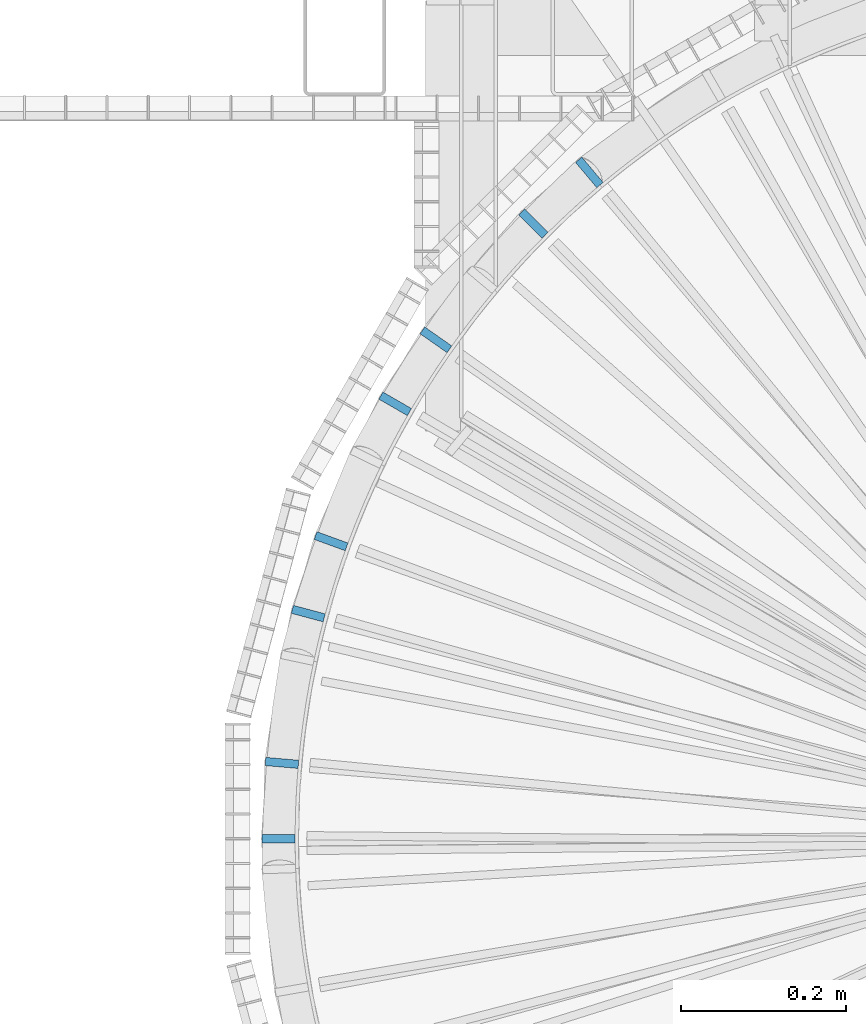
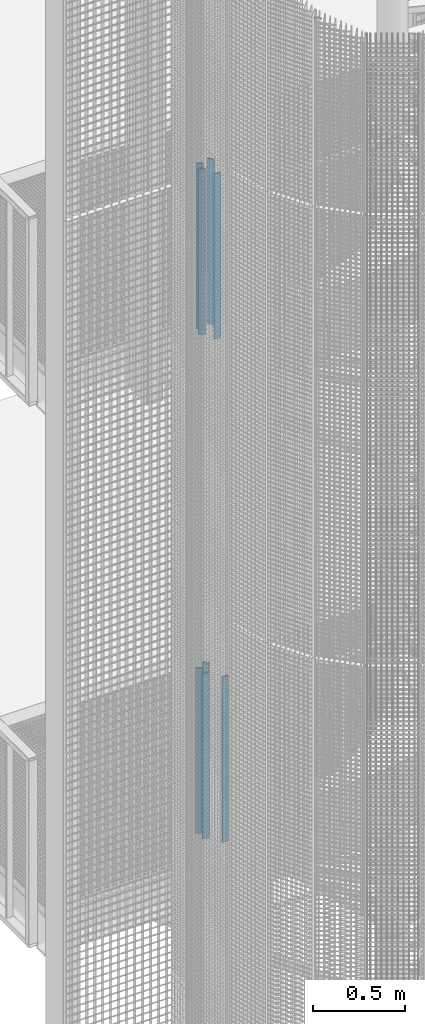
# One storey, part 8 of 1148: 8 columns, 8 elements without a shape of their own.
"""IFC2X3 building model written with IfcOpenShell, lengths in millimetres."""

import ifcopenshell
import ifcopenshell.guid

model = None  # the IFC model being written
_history = None  # IfcOwnerHistory: only IFC2X3 demands one
_inside = {}  # id of a spatial element -> (the spatial element, [elements in it])
_under = {}  # id of a project, library or spatial element -> (it, [spatial elements below it])
_declared = {}  # id of a project -> (the project, [libraries it declares])
_typed = {}  # id of a type object -> (the type object, [elements of that type])
_made_of = {}  # id of a material, layer set ... -> (it, [elements and type objects made of it])


def new_model(schema):
    """Start an empty IFC model of exactly this schema.

    Asked for "IFC4X3", IfcOpenShell would pick the latest addendum, in which some entities
    have other attributes; the version numbers below select the first issue.
    IFC2X3 requires an IfcOwnerHistory on every rooted entity: one is made here for all.
    """
    global model, _history
    if schema == "IFC4X3":
        model = ifcopenshell.file(schema_version=(4, 3, 0, 0))
    else:
        model = ifcopenshell.file(schema=schema)
    _inside.clear()
    _under.clear()
    _declared.clear()
    _typed.clear()
    _made_of.clear()
    _history = None
    if model.schema == "IFC2X3":
        org = make("IfcOrganization", Name="unknown")
        user = make(
            "IfcPersonAndOrganization",
            ThePerson=make("IfcPerson", FamilyName="unknown"),
            TheOrganization=org,
        )
        app = make(
            "IfcApplication",
            ApplicationDeveloper=org,
            Version="unknown",
            ApplicationFullName="unknown",
            ApplicationIdentifier="unknown",
        )
        _history = make(
            "IfcOwnerHistory",
            OwningUser=user,
            OwningApplication=app,
            ChangeAction="ADDED",
            CreationDate=0,
        )
    return model


def make(cls, **values):
    """One entity of the class cls with the attributes given. An attribute that is None is left unset."""
    return model.create_entity(
        cls, **{name: value for name, value in values.items() if value is not None}
    )


def rooted(cls, **values):
    """An entity with a GlobalId (a new one), such as an element, a storey or a relation."""
    return make(cls, GlobalId=ifcopenshell.guid.new(), OwnerHistory=_history, **values)


def si_unit(unit_type, name, prefix=None):
    """IfcSIUnit, for example si_unit("LENGTHUNIT", "METRE", prefix="MILLI")."""
    return make("IfcSIUnit", UnitType=unit_type, Prefix=prefix, Name=name)


def assignment(units):
    """IfcUnitAssignment: the units of a project."""
    return None if units is None else make("IfcUnitAssignment", Units=units)


def point(xyz):
    """IfcCartesianPoint."""
    return None if xyz is None else make("IfcCartesianPoint", Coordinates=xyz)


def direction(xyz):
    """IfcDirection."""
    return None if xyz is None else make("IfcDirection", DirectionRatios=xyz)


def frame(location, z_axis=None, x_axis=None):
    """IfcAxis2Placement3D, a coordinate frame: its origin and axes. An axis left out is left unset."""
    return make(
        "IfcAxis2Placement3D",
        Location=point(location),
        Axis=direction(z_axis),
        RefDirection=direction(x_axis),
    )


def frame_2d(location, x_axis=None):
    """IfcAxis2Placement2D, a coordinate frame in the plane: its origin and x axis."""
    return make(
        "IfcAxis2Placement2D", Location=point(location), RefDirection=direction(x_axis)
    )


def origin_with_axes():
    """The frame at (0, 0, 0) with the z axis (0, 0, 1) and the x axis (1, 0, 0) written out."""
    return frame((0.0, 0.0, 0.0), z_axis=(0.0, 0.0, 1.0), x_axis=(1.0, 0.0, 0.0))


def origin_2d_with_axis():
    """The frame at (0, 0) in the plane with the x axis (1, 0) written out."""
    return frame_2d((0.0, 0.0), x_axis=(1.0, 0.0))


def place(relative_to, where):
    """IfcLocalPlacement: puts the frame where relative to a parent placement (None: the world)."""
    return make(
        "IfcLocalPlacement", PlacementRelTo=relative_to, RelativePlacement=where
    )


def context(
    kind, dimensions, precision=None, world=None, true_north=None, identifier=None
):
    """IfcGeometricRepresentationContext, for example the 3D "Model" context."""
    return make(
        "IfcGeometricRepresentationContext",
        ContextIdentifier=identifier,
        ContextType=kind,
        CoordinateSpaceDimension=dimensions,
        Precision=precision,
        WorldCoordinateSystem=world,
        TrueNorth=true_north,
    )


def subcontext(parent, identifier, kind, view, scale=None):
    """IfcGeometricRepresentationSubContext, for example "Body" below "Model"."""
    return make(
        "IfcGeometricRepresentationSubContext",
        ContextIdentifier=identifier,
        ContextType=kind,
        ParentContext=parent,
        TargetScale=scale,
        TargetView=view,
    )


def project(units=None, contexts=None):
    """IfcProject with its units and contexts."""
    return rooted(
        "IfcProject",
        Name="project",
        RepresentationContexts=contexts,
        UnitsInContext=assignment(units),
    )


def spatial(cls, under=None, at=None, **own):
    """A site, building, storey or space (cls), placed at a placement, below another one or the project."""
    s = rooted(cls, ObjectPlacement=at, **own)
    if under is not None:
        _under.setdefault(under.id(), (under, []))[1].append(s)
    return s


def profile(cls, at=None, kind="AREA", **sizes):
    """A parametric profile (cls). Its sizes go by their IFC names, for example OverallWidth=200.0."""
    return make(cls, ProfileType=kind, Position=at, **sizes)


def rectangle(**sizes):
    """IfcRectangleProfileDef."""
    return profile("IfcRectangleProfileDef", **sizes)


def extrude(swept, where, along, depth):
    """IfcExtrudedAreaSolid: the profile swept, set in the frame where, extruded along a direction by depth."""
    return make(
        "IfcExtrudedAreaSolid",
        SweptArea=swept,
        Position=where,
        ExtrudedDirection=direction(along),
        Depth=depth,
    )


def shape(context_of_items, identifier, shape_type, items):
    """IfcShapeRepresentation: the items that make up one representation, for example the "Body"."""
    return make(
        "IfcShapeRepresentation",
        ContextOfItems=context_of_items,
        RepresentationIdentifier=identifier,
        RepresentationType=shape_type,
        Items=items,
    )


def material(Name=None, Category=None):
    """IfcMaterial."""
    return make("IfcMaterial", Name=Name, Category=Category)


def made_of(thing, what):
    """Note that an element or type object is made of a material, layer set ...; save() writes the relation."""
    if what is not None:
        _made_of.setdefault(what.id(), (what, []))[1].append(thing)
    return thing


def type_object(cls, material=None, **own):
    """A type object (cls), such as IfcWallType, which elements share."""
    return made_of(rooted(cls, **own), material)


def element(
    cls,
    number,
    at=None,
    inside=None,
    cuts=None,
    type_object=None,
    material=None,
    context=None,
    identifier="Body",
    shape_type=None,
    held_by="IfcProductDefinitionShape",
    body=None,
    shapes=None,
    **own,
):
    """One element of the class cls, such as IfcWall. Its Tag is "e" and its number.

    at: its placement. inside: the storey or other place that contains it. cuts: it is an
    opening in that element (IfcRelVoidsElement). A single representation is given by context,
    identifier, shape_type and body (its items); several are given by shapes. held_by: the class
    of the entity that holds the representations. save() writes the other relations.
    """
    e = rooted(cls, Tag="e%d" % number, ObjectPlacement=at, **own)
    if body is not None:
        shapes = [shape(context, identifier, shape_type, body)]
    if shapes is not None:
        e.Representation = make(held_by, Representations=shapes)
    if inside is not None:
        _inside.setdefault(inside.id(), (inside, []))[1].append(e)
    if cuts is not None:
        rooted(
            "IfcRelVoidsElement", RelatingBuildingElement=cuts, RelatedOpeningElement=e
        )
    if type_object is not None:
        _typed.setdefault(type_object.id(), (type_object, []))[1].append(e)
    return made_of(e, material)


def aggregate(whole, parts):
    """IfcRelAggregates: a whole, such as a stair, and the parts it consists of."""
    return rooted("IfcRelAggregates", RelatingObject=whole, RelatedObjects=parts)


def save(model, path):
    """Write the relations noted so far, then the file.

    IfcRelAggregates (storeys below a building ...), IfcRelContainedInSpatialStructure (elements
    in a storey), IfcRelDefinesByType, IfcRelAssociatesMaterial and IfcRelDeclares: one each for
    every whole, place, type object, material and project.
    """
    for whole, parts in _under.values():
        aggregate(whole, parts)
    for where, things in _inside.values():
        rooted(
            "IfcRelContainedInSpatialStructure",
            RelatedElements=things,
            RelatingStructure=where,
        )
    for kind, things in _typed.values():
        rooted("IfcRelDefinesByType", RelatedObjects=things, RelatingType=kind)
    for what, things in _made_of.values():
        rooted("IfcRelAssociatesMaterial", RelatedObjects=things, RelatingMaterial=what)
    for by, libraries in _declared.values():
        rooted("IfcRelDeclares", RelatingContext=by, RelatedDefinitions=libraries)
    model.write(path)


model = new_model("IFC2X3")

# Units and contexts
model_context = context("Model", 3, precision=1e-05, world=origin_with_axes())
body_context = subcontext(model_context, "Body", "Model", "MODEL_VIEW")
ifc_project = project(units=[si_unit("LENGTHUNIT", "METRE", prefix="MILLI"), si_unit("AREAUNIT", "SQUARE_METRE"), si_unit("VOLUMEUNIT", "CUBIC_METRE"), si_unit("MASSUNIT", "GRAM", prefix="KILO"), si_unit("TIMEUNIT", "SECOND"), si_unit("PLANEANGLEUNIT", "RADIAN"), si_unit("SOLIDANGLEUNIT", "STERADIAN"), si_unit("THERMODYNAMICTEMPERATUREUNIT", "DEGREE_CELSIUS"), si_unit("LUMINOUSINTENSITYUNIT", "LUMEN")], contexts=[model_context])

# Site, building, storey
site_placement = place(None, origin_with_axes())
site = spatial("IfcSite", under=ifc_project, at=site_placement, Name="Undefined", CompositionType="ELEMENT")
building_placement = place(site_placement, origin_with_axes())
building = spatial("IfcBuilding", under=site, at=building_placement, Name="Undefined", CompositionType="ELEMENT")
storey_placement = place(building_placement, origin_with_axes())
storey = spatial("IfcBuildingStorey", under=building, at=storey_placement, Name="Undefined", CompositionType="ELEMENT", Elevation=0.0)

# Assembly, column
assembly_1_placement = place(storey_placement, origin_with_axes())
assembly_1 = element("IfcElementAssembly", 1, at=assembly_1_placement, inside=storey, Name="MONTANT", AssemblyPlace="NOTDEFINED", PredefinedType="NOTDEFINED")
ifc_material = material(Name="STEEL/S235JR")
column_type = type_object("IfcColumnType", Name="PL10*40", PredefinedType="NOTDEFINED")
column_1_placement = place(assembly_1_placement, frame((-677.49814060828, 807.410843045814, 10246.52), z_axis=(0.0, 0.0, 1.0), x_axis=(0.642787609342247, -0.766044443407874, 0.0)))
column_1 = element("IfcColumn", 2, at=column_1_placement, type_object=column_type, material=ifc_material, Name="MONTANT", context=body_context, shape_type="SweptSolid", body=[
    extrude(rectangle(XDim=10.0, YDim=40.0, at=origin_2d_with_axis()), frame((0.0, 0.0, 1100.0), z_axis=(0.0, 0.0, -1.0), x_axis=(0.0, 1.0, 0.0)), (0.0, 0.0, 1.0), 1100.0),
])
aggregate(assembly_1, [column_1])

assembly_2_placement = place(storey_placement, origin_with_axes())
assembly_2 = element("IfcElementAssembly", 3, at=assembly_2_placement, inside=storey, Name="MONTANT", AssemblyPlace="NOTDEFINED", PredefinedType="NOTDEFINED")
column_2_placement = place(assembly_2_placement, frame((-1049.98921178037, 91.8621528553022, 10716.08), z_axis=(0.0, 0.0, 1.0), x_axis=(0.996194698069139, -0.0871557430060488, 0.0)))
column_2 = element("IfcColumn", 4, at=column_2_placement, type_object=column_type, material=ifc_material, Name="MONTANT", context=body_context, shape_type="SweptSolid", body=[
    extrude(rectangle(XDim=10.0, YDim=40.0, at=origin_2d_with_axis()), frame((0.0, 0.0, 1100.0), z_axis=(0.0, 0.0, -1.0), x_axis=(0.0, 1.0, 0.0)), (0.0, 0.0, 1.0), 1100.0),
])
aggregate(assembly_2, [column_2])

assembly_3_placement = place(storey_placement, origin_with_axes())
assembly_3 = element("IfcElementAssembly", 5, at=assembly_3_placement, inside=storey, Name="MONTANT", AssemblyPlace="NOTDEFINED", PredefinedType="NOTDEFINED")
column_3_placement = place(assembly_3_placement, frame((-990.43602231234, 360.489231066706, 10559.56), z_axis=(0.0, 0.0, 1.0), x_axis=(0.939692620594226, -0.342020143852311, 0.0)))
column_3 = element("IfcColumn", 6, at=column_3_placement, type_object=column_type, material=ifc_material, Name="MONTANT", context=body_context, shape_type="SweptSolid", body=[
    extrude(rectangle(XDim=10.0, YDim=40.0, at=origin_2d_with_axis()), frame((0.0, 0.0, 1100.0), z_axis=(0.0, 0.0, -1.0), x_axis=(0.0, 1.0, 0.0)), (0.0, 0.0, 1.0), 1100.0),
])
aggregate(assembly_3, [column_3])

assembly_4_placement = place(storey_placement, origin_with_axes())
assembly_4 = element("IfcElementAssembly", 7, at=assembly_4_placement, inside=storey, Name="MONTANT", AssemblyPlace="NOTDEFINED", PredefinedType="NOTDEFINED")
column_4_placement = place(assembly_4_placement, frame((-863.386254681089, 604.549563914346, 10403.04), z_axis=(0.0, 0.0, 1.0), x_axis=(0.819152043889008, -0.573576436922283, 0.0)))
column_4 = element("IfcColumn", 8, at=column_4_placement, type_object=column_type, material=ifc_material, Name="MONTANT", context=body_context, shape_type="SweptSolid", body=[
    extrude(rectangle(XDim=10.0, YDim=40.0, at=origin_2d_with_axis()), frame((0.0, 0.0, 1100.0), z_axis=(0.0, 0.0, -1.0), x_axis=(0.0, 1.0, 0.0)), (0.0, 0.0, 1.0), 1100.0),
])
aggregate(assembly_4, [column_4])

assembly_5_placement = place(storey_placement, origin_with_axes())
assembly_5 = element("IfcElementAssembly", 9, at=assembly_5_placement, inside=storey, Name="MONTANT", AssemblyPlace="NOTDEFINED", PredefinedType="NOTDEFINED")
column_5_placement = place(assembly_5_placement, frame((-1018.08582091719, 272.795273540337, 7272.6), z_axis=(0.0, 0.0, 1.0), x_axis=(0.965925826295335, -0.258819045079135, 0.0)))
column_5 = element("IfcColumn", 10, at=column_5_placement, type_object=column_type, material=ifc_material, Name="MONTANT", context=body_context, shape_type="SweptSolid", body=[
    extrude(rectangle(XDim=10.0, YDim=40.0, at=origin_2d_with_axis()), frame((0.0, 0.0, 1100.0), z_axis=(0.0, 0.0, -1.0), x_axis=(0.0, 1.0, 0.0)), (0.0, 0.0, 1.0), 1100.0),
])
aggregate(assembly_5, [column_5])

assembly_6_placement = place(storey_placement, origin_with_axes())
assembly_6 = element("IfcElementAssembly", 11, at=assembly_6_placement, inside=storey, Name="MONTANT", AssemblyPlace="NOTDEFINED", PredefinedType="NOTDEFINED")
column_6_placement = place(assembly_6_placement, frame((-1053.99999999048, 5.09260189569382e-13, 7429.12), z_axis=(0.0, 0.0, 1.0), x_axis=(1.0, 0.0, 0.0)))
column_6 = element("IfcColumn", 12, at=column_6_placement, type_object=column_type, material=ifc_material, Name="MONTANT", context=body_context, shape_type="SweptSolid", body=[
    extrude(rectangle(XDim=10.0, YDim=40.0, at=origin_2d_with_axis()), frame((0.0, 0.0, 1100.0), z_axis=(0.0, 0.0, -1.0), x_axis=(0.0, 1.0, 0.0)), (0.0, 0.0, 1.0), 1100.0),
])
aggregate(assembly_6, [column_6])

assembly_7_placement = place(storey_placement, origin_with_axes())
assembly_7 = element("IfcElementAssembly", 13, at=assembly_7_placement, inside=storey, Name="MONTANT", AssemblyPlace="NOTDEFINED", PredefinedType="NOTDEFINED")
column_7_placement = place(assembly_7_placement, frame((-912.790775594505, 527.000000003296, 7116.08), z_axis=(0.0, 0.0, 1.0), x_axis=(0.866025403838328, -0.49999999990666, 0.0)))
column_7 = element("IfcColumn", 14, at=column_7_placement, type_object=column_type, material=ifc_material, Name="MONTANT", context=body_context, shape_type="SweptSolid", body=[
    extrude(rectangle(XDim=10.0, YDim=40.0, at=origin_2d_with_axis()), frame((0.0, 0.0, 1100.0), z_axis=(0.0, 0.0, -1.0), x_axis=(0.0, 1.0, 0.0)), (0.0, 0.0, 1.0), 1100.0),
])
aggregate(assembly_7, [column_7])

assembly_8_placement = place(storey_placement, origin_with_axes())
assembly_8 = element("IfcElementAssembly", 15, at=assembly_8_placement, inside=storey, Name="MONTANT", AssemblyPlace="NOTDEFINED", PredefinedType="NOTDEFINED")
column_8_placement = place(assembly_8_placement, frame((-745.290547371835, 745.290547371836, 6959.56), z_axis=(0.0, 0.0, 1.0), x_axis=(0.707106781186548, -0.707106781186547, 0.0)))
column_8 = element("IfcColumn", 16, at=column_8_placement, type_object=column_type, material=ifc_material, Name="MONTANT", context=body_context, shape_type="SweptSolid", body=[
    extrude(rectangle(XDim=10.0, YDim=40.0, at=origin_2d_with_axis()), frame((0.0, 0.0, 1100.0), z_axis=(0.0, 0.0, -1.0), x_axis=(0.0, 1.0, 0.0)), (0.0, 0.0, 1.0), 1100.0),
])
aggregate(assembly_8, [column_8])

save(model, "model.ifc")
